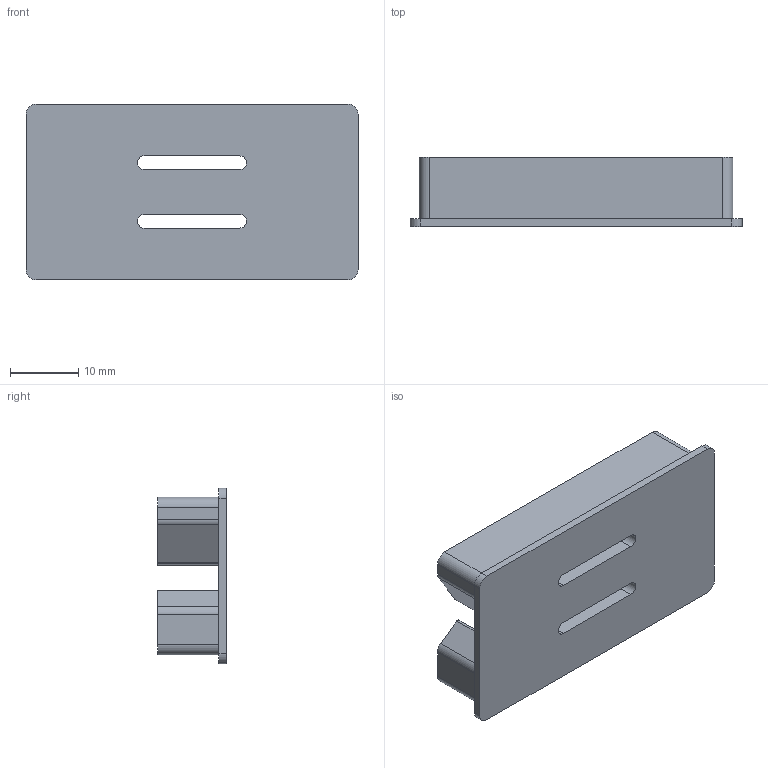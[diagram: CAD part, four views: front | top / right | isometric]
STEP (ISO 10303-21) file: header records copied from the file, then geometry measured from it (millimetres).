
FILE_DESCRIPTION (( 'STEP AP214' ), '1' );
FILE_NAME ('Cos PP58.STEP', '2017-12-04T12:08:26', ( 'aaa' ), ( '' ), 'SwSTEP 2.0', 'SolidWorks 2013', '' );
FILE_SCHEMA (( 'AUTOMOTIVE_DESIGN' ));
Length unit declared in the file: millimetre
Products named in the file (1): Cos PP58
Bounding box: 48.7 x 10.1 x 25.8 mm (x, y, z)
Volume: 3632.1 mm3; surface area: 6690.3 mm2
Topology: 1 solids, 1 shells, 128 faces, 348 edges, 230 vertices
Faces by surface type: cylinder 74, plane 54
Entity records: 4121 total; most frequent: DIRECTION 734, CARTESIAN_POINT 728, ORIENTED_EDGE 696, EDGE_CURVE 348, AXIS2_PLACEMENT_3D 264, VERTEX_POINT 230, VECTOR 206, LINE 206
